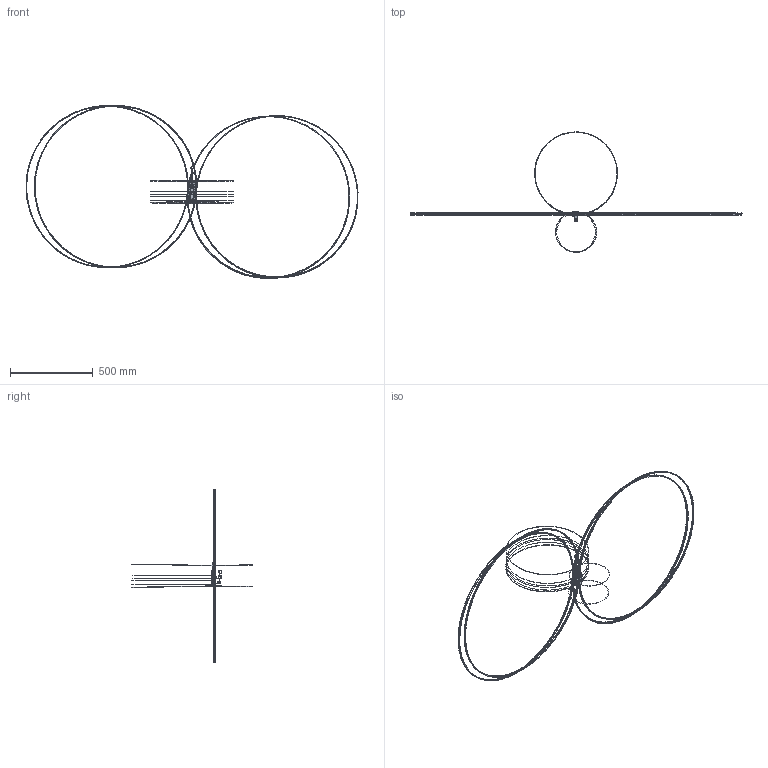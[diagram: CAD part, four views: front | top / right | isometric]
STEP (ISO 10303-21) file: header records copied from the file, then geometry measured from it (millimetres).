
FILE_DESCRIPTION((''),'2;1');
FILE_NAME('1','2014-06-11T',('tony'),(''),'PRO/ENGINEER BY PARAMETRIC TECHNOLOGY CORPORATION, 2008090','PRO/ENGINEER BY PARAMETRIC TECHNOLOGY CORPORATION, 2008090','');
FILE_SCHEMA(('CONFIG_CONTROL_DESIGN'));
Products named in the file (1): 1
Bounding box: 2006.66 x 727.48 x 1046.6 mm (x, y, z)
Surface area: 518019.1 mm2 (no closed solid volume)
Topology: 0 solids, 0 shells, 2187 faces, 11956 edges, 11811 vertices
Faces by surface type: bspline 2037, torus 128, sphere 22
Entity records: 203459 total; most frequent: CARTESIAN_POINT 104406, DIRECTION 14661, TRIMMED_CURVE 12502, DEFINITIONAL_REPRESENTATION 11700, PCURVE 11700, COMPOSITE_CURVE_SEGMENT 11700, VECTOR 10643, LINE 10643
